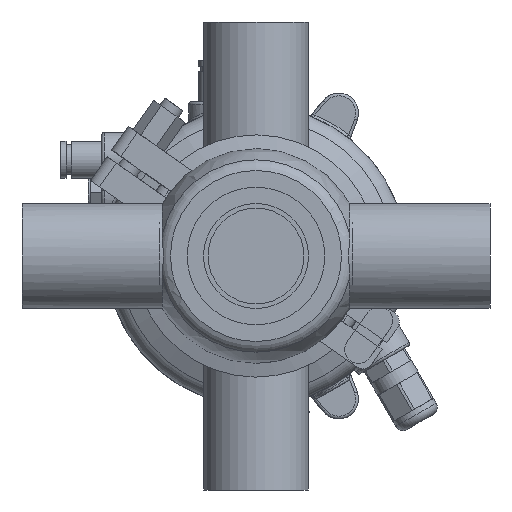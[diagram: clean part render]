
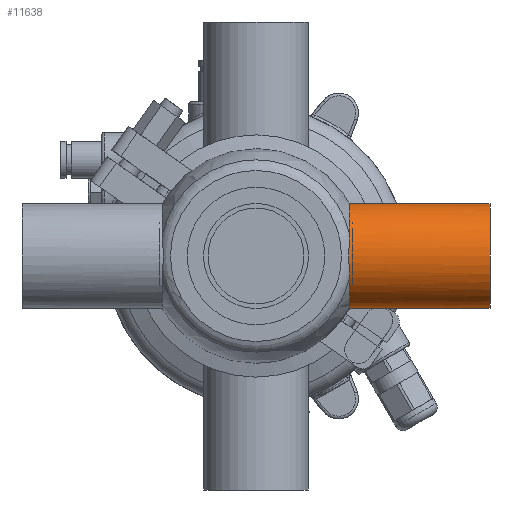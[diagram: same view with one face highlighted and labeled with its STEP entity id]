
A CAD part, front view. The second image highlights one B-rep face of the part: STEP entity #11638.
In plain terms, the highlighted cylindrical face has radius 19.05 mm (diameter 38.1 mm), a full revolution.
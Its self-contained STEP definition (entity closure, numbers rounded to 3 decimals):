
#434 = DIRECTION ( 'NONE',  ( -1., 0., 0. ) ) ;
#3157 = VERTEX_POINT ( 'NONE', #58696 ) ;
#4753 = CARTESIAN_POINT ( 'NONE',  ( 33.756, -18.872, 2.686 ) ) ;
#7933 = AXIS2_PLACEMENT_3D ( 'NONE', #34041, #47486, #9975 ) ;
#8468 = CARTESIAN_POINT ( 'NONE',  ( 34.031, -17.924, -6.593 ) ) ;
#9975 = DIRECTION ( 'NONE',  ( 0., 0., 1. ) ) ;
#11638 = ADVANCED_FACE ( 'NONE', ( #55816, #51260 ), #28041, .T. ) ;
#11823 = CIRCLE ( 'NONE', #7933, 19.05 ) ;
#12582 = AXIS2_PLACEMENT_3D ( 'NONE', #46627, #17427, #12823 ) ;
#12823 = DIRECTION ( 'NONE',  ( 0., 0., 1. ) ) ;
#13050 = CARTESIAN_POINT ( 'NONE',  ( 34.031, -17.925, 6.591 ) ) ;
#13454 = B_SPLINE_CURVE_WITH_KNOTS ( 'NONE', 3,
 ( #18236, #13050, #59976, #37072, #4753, #50884, #31658, #32540, #51179, #13640, #50292, #32225, #8468, #27077 ),
 .UNSPECIFIED., .F., .F.,
 ( 4, 2, 2, 2, 2, 2, 4 ),
 ( 0., 0.004, 0.006, 0.008, 0.01, 0.012, 0.016 ),
 .UNSPECIFIED. ) ;
#13640 = CARTESIAN_POINT ( 'NONE',  ( 33.755, -18.874, -2.667 ) ) ;
#15529 = VERTEX_POINT ( 'NONE', #47262 ) ;
#15690 = EDGE_CURVE ( 'NONE', #15529, #44777, #13454, .T. ) ;
#17427 = DIRECTION ( 'NONE',  ( -1., 0., 0. ) ) ;
#18004 = AXIS2_PLACEMENT_3D ( 'NONE', #23701, #434, #18487 ) ;
#18236 = CARTESIAN_POINT ( 'NONE',  ( 34.031, -17.366, 7.83 ) ) ;
#18487 = DIRECTION ( 'NONE',  ( 0., 0., 1. ) ) ;
#19440 = EDGE_LOOP ( 'NONE', ( #56403 ) ) ;
#22005 = ORIENTED_EDGE ( 'NONE', *, *, #24924, .T. ) ;
#23701 = CARTESIAN_POINT ( 'NONE',  ( 85., 0., 0. ) ) ;
#24924 = EDGE_CURVE ( 'NONE', #44777, #15529, #11823, .T. ) ;
#26542 = ORIENTED_EDGE ( 'NONE', *, *, #15690, .T. ) ;
#27077 = CARTESIAN_POINT ( 'NONE',  ( 34.031, -17.366, -7.83 ) ) ;
#28041 = CYLINDRICAL_SURFACE ( 'NONE', #12582, 19.05 ) ;
#30551 = EDGE_CURVE ( 'NONE', #3157, #3157, #39421, .T. ) ;
#31658 = CARTESIAN_POINT ( 'NONE',  ( 33.675, -19.05, 0.667 ) ) ;
#32225 = CARTESIAN_POINT ( 'NONE',  ( 33.936, -18.344, -5.312 ) ) ;
#32540 = CARTESIAN_POINT ( 'NONE',  ( 33.675, -19.05, -0.671 ) ) ;
#34041 = CARTESIAN_POINT ( 'NONE',  ( 34.031, 0., 0. ) ) ;
#37072 = CARTESIAN_POINT ( 'NONE',  ( 33.8, -18.765, 3.352 ) ) ;
#39421 = CIRCLE ( 'NONE', #18004, 19.05 ) ;
#44777 = VERTEX_POINT ( 'NONE', #45006 ) ;
#45006 = CARTESIAN_POINT ( 'NONE',  ( 34.031, -17.366, -7.83 ) ) ;
#46627 = CARTESIAN_POINT ( 'NONE',  ( 0., 0., 0. ) ) ;
#47262 = CARTESIAN_POINT ( 'NONE',  ( 34.031, -17.366, 7.83 ) ) ;
#47486 = DIRECTION ( 'NONE',  ( 1., 0., 0. ) ) ;
#47493 = EDGE_LOOP ( 'NONE', ( #22005, #26542 ) ) ;
#50292 = CARTESIAN_POINT ( 'NONE',  ( 33.799, -18.769, -3.33 ) ) ;
#50884 = CARTESIAN_POINT ( 'NONE',  ( 33.693, -19.015, 1.339 ) ) ;
#51179 = CARTESIAN_POINT ( 'NONE',  ( 33.693, -19.015, -1.338 ) ) ;
#51260 = FACE_OUTER_BOUND ( 'NONE', #19440, .T. ) ;
#55816 = FACE_OUTER_BOUND ( 'NONE', #47493, .T. ) ;
#56403 = ORIENTED_EDGE ( 'NONE', *, *, #30551, .T. ) ;
#58696 = CARTESIAN_POINT ( 'NONE',  ( 85., 0., 19.05 ) ) ;
#59976 = CARTESIAN_POINT ( 'NONE',  ( 33.937, -18.342, 5.317 ) ) ;
